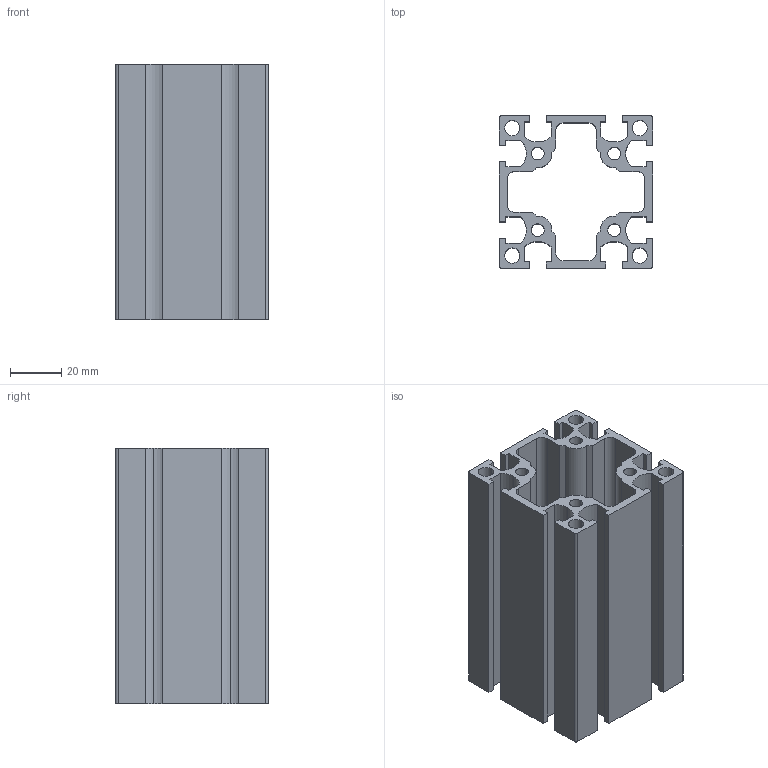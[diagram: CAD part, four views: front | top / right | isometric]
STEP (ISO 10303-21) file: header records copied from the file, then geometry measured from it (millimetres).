
FILE_DESCRIPTION (( 'STEP AP203' ), '1' );
FILE_NAME ('WS6060-6-.STEP', '2024-02-17T06:46:04', ( '' ), ( '' ), 'SwSTEP 2.0', 'SolidWorks 2022', '' );
FILE_SCHEMA (( 'CONFIG_CONTROL_DESIGN' ));
Length unit declared in the file: millimetre
Products named in the file (1): WS6060-6-
Bounding box: 60 x 60 x 100 mm (x, y, z)
Volume: 108907.7 mm3; surface area: 79434.1 mm2
Topology: 1 solids, 1 shells, 126 faces, 372 edges, 248 vertices
Faces by surface type: plane 82, cylinder 44
Entity records: 4317 total; most frequent: CARTESIAN_POINT 747, ORIENTED_EDGE 744, DIRECTION 714, EDGE_CURVE 372, LINE 284, VECTOR 284, VERTEX_POINT 248, AXIS2_PLACEMENT_3D 215
